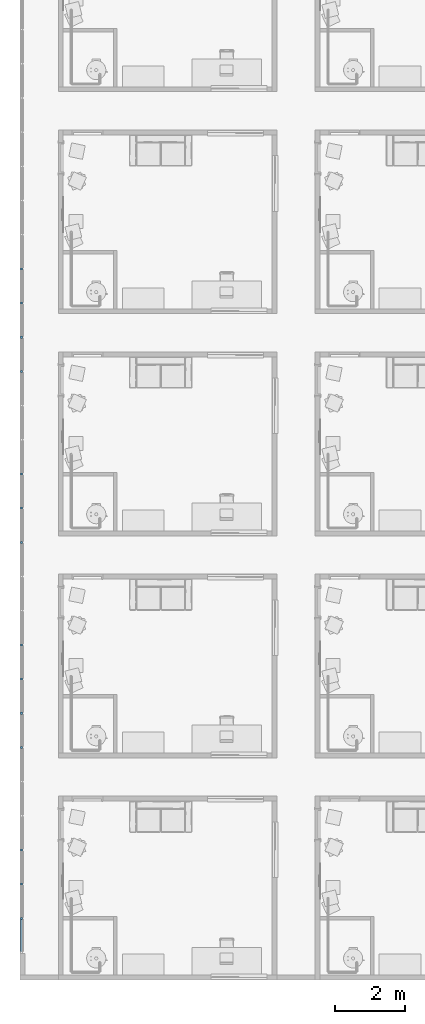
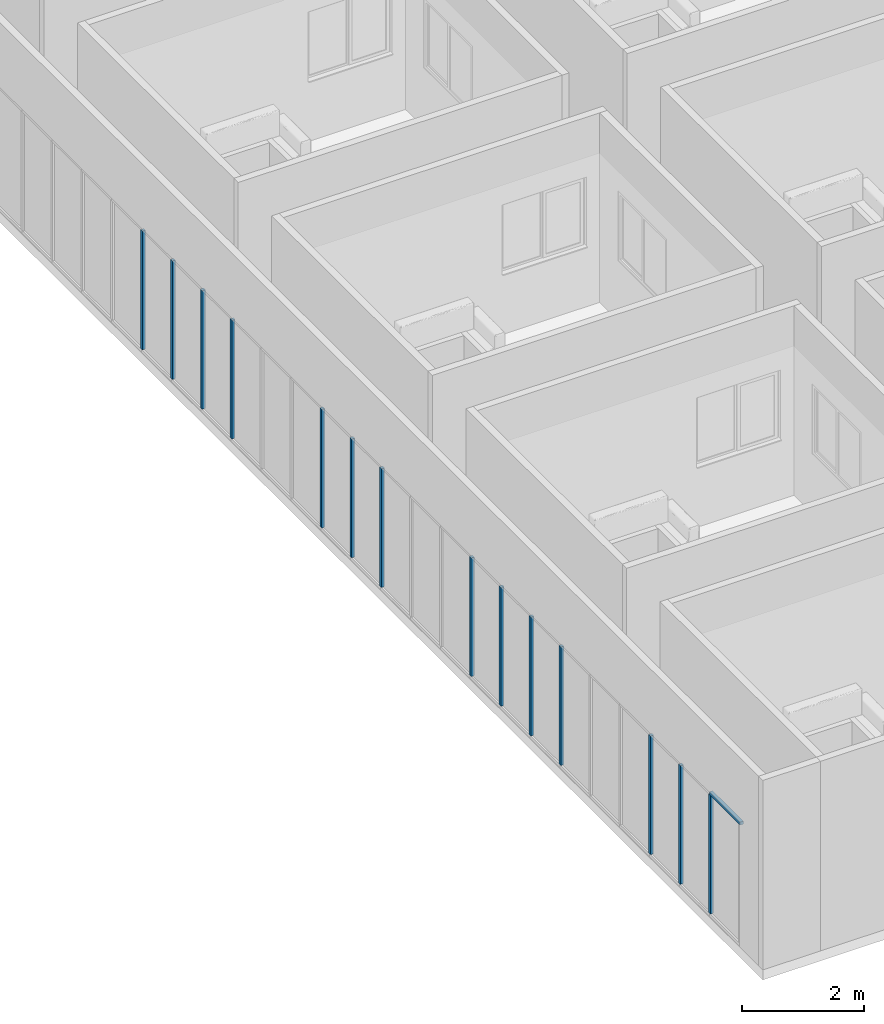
# One storey, part 1 of 69: 15 members, 1 element without a shape of its own.
"""IFC4 building model written with IfcOpenShell, lengths in centimetres."""

from ifc_helpers import new_model, entity, si_unit, converted_unit, derived_unit, direction, frame, origin, place, context, subcontext, project, spatial, indexed_curve, outline, extrude, source, transform, mapped, material, type_object, type_shapes, element, aggregate, save


model = new_model("IFC4")

# Units and contexts
model_context = context("Model", 3, precision=0.001, world=origin(), true_north=direction((6.123233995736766e-17, 1.0)))
body_context = subcontext(model_context, "Body", "Model", "MODEL_VIEW")
ifc_project = project(units=[si_unit("LENGTHUNIT", "METRE", prefix="CENTI"), si_unit("AREAUNIT", "SQUARE_METRE"), si_unit("VOLUMEUNIT", "CUBIC_METRE"), derived_unit("THERMALTRANSMITTANCEUNIT", [(si_unit("MASSUNIT", "GRAM", prefix="KILO"), 1), (si_unit("THERMODYNAMICTEMPERATUREUNIT", "KELVIN"), -1), (si_unit("TIMEUNIT", "SECOND"), -3)]), converted_unit("PLANEANGLEUNIT", "DEGREE", entity("IfcPlaneAngleMeasure", 0.017453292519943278), si_unit("PLANEANGLEUNIT", "RADIAN"), dimensions=[0, 0, 0, 0, 0, 0, 0]), derived_unit("MASSDENSITYUNIT", [(si_unit("MASSUNIT", "GRAM", prefix="KILO"), 1), (si_unit("LENGTHUNIT", "METRE"), -3)]), derived_unit("VAPORPERMEABILITYUNIT", [(si_unit("LENGTHUNIT", "METRE"), -1), (si_unit("TIMEUNIT", "SECOND"), 1)]), derived_unit("USERDEFINED", [(si_unit("MASSUNIT", "GRAM", prefix="KILO"), 1), (si_unit("TIMEUNIT", "SECOND"), -3), (si_unit("LENGTHUNIT", "METRE"), 3), (si_unit("ELECTRICCURRENTUNIT", "AMPERE"), -2)]), derived_unit("SPECIFICHEATCAPACITYUNIT", [(si_unit("THERMODYNAMICTEMPERATUREUNIT", "KELVIN"), -1), (si_unit("LENGTHUNIT", "METRE"), 2), (si_unit("TIMEUNIT", "SECOND"), -2)]), derived_unit("THERMALCONDUCTANCEUNIT", [(si_unit("MASSUNIT", "GRAM", prefix="KILO"), 1), (si_unit("THERMODYNAMICTEMPERATUREUNIT", "KELVIN"), -1), (si_unit("TIMEUNIT", "SECOND"), -3), (si_unit("LENGTHUNIT", "METRE"), 1)]), si_unit("PRESSUREUNIT", "PASCAL"), derived_unit("MODULUSOFELASTICITYUNIT", [(si_unit("MASSUNIT", "GRAM", prefix="KILO"), 1), (si_unit("LENGTHUNIT", "METRE"), -1), (si_unit("TIMEUNIT", "SECOND"), -2)]), derived_unit("THERMALEXPANSIONCOEFFICIENTUNIT", [(si_unit("THERMODYNAMICTEMPERATUREUNIT", "KELVIN"), -1)])], contexts=[model_context])

# Site, building, storey
site_placement = place(None, origin())
site = spatial("IfcSite", under=ifc_project, at=site_placement, Name="Default", CompositionType="ELEMENT")
building_placement = place(site_placement, origin())
building = spatial("IfcBuilding", under=site, at=building_placement, Name="IDS Escape Game Building", CompositionType="ELEMENT")
storey_placement = place(building_placement, origin())
storey = spatial("IfcBuildingStorey", under=building, at=storey_placement, Name="00_Ground Floor", CompositionType="ELEMENT", Elevation=0.0)

# Curtain wall, members
curtain_wall_type = type_object("IfcCurtainWallType", Name="Curtain Wall:ARC_31.3_CWA_LIB_bandraam vast 100cm - profiel 60x60_gen_BERSnl", PredefinedType="NOTDEFINED")
curtain_wall_placement = place(storey_placement, origin())
curtain_wall = element("IfcCurtainWall", 1, at=curtain_wall_placement, inside=storey, type_object=curtain_wall_type, Name="Curtain Wall:ARC_31.3_CWA_LIB_bandraam vast 100cm - profiel 60x60_gen_BERSnl", ObjectType="Curtain Wall:ARC_31.3_CWA_LIB_bandraam vast 100cm - profiel 60x60_gen_BERSnl", PredefinedType="NOTDEFINED")
ifc_material = material(Name="<Unnamed>")
member_type_1 = type_object("IfcMemberType", Name="Rectangular Mullion:30-_Stijl_Rechthoek_Midden_B60xD60", PredefinedType="MULLION", material=ifc_material)
shared_shape_1 = source(origin(), body_context, "Body", "SweptSolid", [
    extrude(outline(indexed_curve([(-3.0, -3.0), (3.0, -3.0), (3.0, 3.0), (-3.0, 3.0), (-3.0, -3.0)], self_intersect=False)), frame((0.0, 3.0, -238.0), z_axis=(0.0, 0.0, 1.0), x_axis=(-1.0, 0.0, 0.0)), (0.0, 0.0, 1.0), 238.00000000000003),
])
type_shapes(member_type_1, [shared_shape_1])
member_1_placement = place(curtain_wall_placement, frame((-110.0, 2041.870967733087, 6.0), z_axis=(0.0, 0.0, -1.0), x_axis=(0.0, -1.0, 0.0)))
member_1 = element("IfcMember", 2, at=member_1_placement, type_object=member_type_1, material=ifc_material, Name="Rectangular Mullion:30-_Stijl_Rechthoek_Midden_B60xD60", ObjectType="Rectangular Mullion:30-_Stijl_Rechthoek_Midden_B60xD60", PredefinedType="MULLION", context=body_context, shape_type="MappedRepresentation", body=[
    mapped(shared_shape_1, transform((0.0, 0.0, 0.0), scale=1.0)),
])
member_2_placement = place(curtain_wall_placement, frame((-110.0, 1943.6774193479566, 6.0), z_axis=(0.0, 0.0, -1.0), x_axis=(0.0, -1.0, 0.0)))
member_2 = element("IfcMember", 3, at=member_2_placement, type_object=member_type_1, material=ifc_material, Name="Rectangular Mullion:30-_Stijl_Rechthoek_Midden_B60xD60", ObjectType="Rectangular Mullion:30-_Stijl_Rechthoek_Midden_B60xD60", PredefinedType="MULLION", context=body_context, shape_type="MappedRepresentation", body=[
    mapped(shared_shape_1, transform((0.0, 0.0, 0.0), scale=1.0)),
])
member_3_placement = place(curtain_wall_placement, frame((-110.0, 1845.4838709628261, 6.0), z_axis=(0.0, 0.0, -1.0), x_axis=(0.0, -1.0, 0.0)))
member_3 = element("IfcMember", 4, at=member_3_placement, type_object=member_type_1, material=ifc_material, Name="Rectangular Mullion:30-_Stijl_Rechthoek_Midden_B60xD60", ObjectType="Rectangular Mullion:30-_Stijl_Rechthoek_Midden_B60xD60", PredefinedType="MULLION", context=body_context, shape_type="MappedRepresentation", body=[
    mapped(shared_shape_1, transform((0.0, 0.0, 0.0), scale=1.0)),
])
member_4_placement = place(curtain_wall_placement, frame((-110.0, 1747.2903225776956, 6.0), z_axis=(0.0, 0.0, -1.0), x_axis=(0.0, -1.0, 0.0)))
member_4 = element("IfcMember", 5, at=member_4_placement, type_object=member_type_1, material=ifc_material, Name="Rectangular Mullion:30-_Stijl_Rechthoek_Midden_B60xD60", ObjectType="Rectangular Mullion:30-_Stijl_Rechthoek_Midden_B60xD60", PredefinedType="MULLION", context=body_context, shape_type="MappedRepresentation", body=[
    mapped(shared_shape_1, transform((0.0, 0.0, 0.0), scale=1.0)),
])
member_5_placement = place(curtain_wall_placement, frame((-110.0, 1452.7096774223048, 6.0), z_axis=(0.0, 0.0, -1.0), x_axis=(0.0, -1.0, 0.0)))
member_5 = element("IfcMember", 6, at=member_5_placement, type_object=member_type_1, material=ifc_material, Name="Rectangular Mullion:30-_Stijl_Rechthoek_Midden_B60xD60", ObjectType="Rectangular Mullion:30-_Stijl_Rechthoek_Midden_B60xD60", PredefinedType="MULLION", context=body_context, shape_type="MappedRepresentation", body=[
    mapped(shared_shape_1, transform((0.0, 0.0, 0.0), scale=1.0)),
])
member_6_placement = place(curtain_wall_placement, frame((-110.0, 1354.5161290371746, 6.0), z_axis=(0.0, 0.0, -1.0), x_axis=(0.0, -1.0, 0.0)))
member_6 = element("IfcMember", 7, at=member_6_placement, type_object=member_type_1, material=ifc_material, Name="Rectangular Mullion:30-_Stijl_Rechthoek_Midden_B60xD60", ObjectType="Rectangular Mullion:30-_Stijl_Rechthoek_Midden_B60xD60", PredefinedType="MULLION", context=body_context, shape_type="MappedRepresentation", body=[
    mapped(shared_shape_1, transform((0.0, 0.0, 0.0), scale=1.0)),
])
member_7_placement = place(curtain_wall_placement, frame((-110.0, 1256.3225806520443, 6.0), z_axis=(0.0, 0.0, -1.0), x_axis=(0.0, -1.0, 0.0)))
member_7 = element("IfcMember", 8, at=member_7_placement, type_object=member_type_1, material=ifc_material, Name="Rectangular Mullion:30-_Stijl_Rechthoek_Midden_B60xD60", ObjectType="Rectangular Mullion:30-_Stijl_Rechthoek_Midden_B60xD60", PredefinedType="MULLION", context=body_context, shape_type="MappedRepresentation", body=[
    mapped(shared_shape_1, transform((0.0, 0.0, 0.0), scale=1.0)),
])
member_8_placement = place(curtain_wall_placement, frame((-110.0, 961.741935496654, 6.0), z_axis=(0.0, 0.0, -1.0), x_axis=(0.0, -1.0, 0.0)))
member_8 = element("IfcMember", 9, at=member_8_placement, type_object=member_type_1, material=ifc_material, Name="Rectangular Mullion:30-_Stijl_Rechthoek_Midden_B60xD60", ObjectType="Rectangular Mullion:30-_Stijl_Rechthoek_Midden_B60xD60", PredefinedType="MULLION", context=body_context, shape_type="MappedRepresentation", body=[
    mapped(shared_shape_1, transform((0.0, 0.0, 0.0), scale=1.0)),
])
member_9_placement = place(curtain_wall_placement, frame((-110.0, 863.5483871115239, 6.0), z_axis=(0.0, 0.0, -1.0), x_axis=(0.0, -1.0, 0.0)))
member_9 = element("IfcMember", 10, at=member_9_placement, type_object=member_type_1, material=ifc_material, Name="Rectangular Mullion:30-_Stijl_Rechthoek_Midden_B60xD60", ObjectType="Rectangular Mullion:30-_Stijl_Rechthoek_Midden_B60xD60", PredefinedType="MULLION", context=body_context, shape_type="MappedRepresentation", body=[
    mapped(shared_shape_1, transform((0.0, 0.0, 0.0), scale=1.0)),
])
member_10_placement = place(curtain_wall_placement, frame((-110.0, 765.3548387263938, 6.0), z_axis=(0.0, 0.0, -1.0), x_axis=(0.0, -1.0, 0.0)))
member_10 = element("IfcMember", 11, at=member_10_placement, type_object=member_type_1, material=ifc_material, Name="Rectangular Mullion:30-_Stijl_Rechthoek_Midden_B60xD60", ObjectType="Rectangular Mullion:30-_Stijl_Rechthoek_Midden_B60xD60", PredefinedType="MULLION", context=body_context, shape_type="MappedRepresentation", body=[
    mapped(shared_shape_1, transform((0.0, 0.0, 0.0), scale=1.0)),
])
member_11_placement = place(curtain_wall_placement, frame((-110.0, 667.1612903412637, 6.0), z_axis=(0.0, 0.0, -1.0), x_axis=(0.0, -1.0, 0.0)))
member_11 = element("IfcMember", 12, at=member_11_placement, type_object=member_type_1, material=ifc_material, Name="Rectangular Mullion:30-_Stijl_Rechthoek_Midden_B60xD60", ObjectType="Rectangular Mullion:30-_Stijl_Rechthoek_Midden_B60xD60", PredefinedType="MULLION", context=body_context, shape_type="MappedRepresentation", body=[
    mapped(shared_shape_1, transform((0.0, 0.0, 0.0), scale=1.0)),
])
member_12_placement = place(curtain_wall_placement, frame((-110.0, 372.5806451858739, 6.0), z_axis=(0.0, 0.0, -1.0), x_axis=(0.0, -1.0, 0.0)))
member_12 = element("IfcMember", 13, at=member_12_placement, type_object=member_type_1, material=ifc_material, Name="Rectangular Mullion:30-_Stijl_Rechthoek_Midden_B60xD60", ObjectType="Rectangular Mullion:30-_Stijl_Rechthoek_Midden_B60xD60", PredefinedType="MULLION", context=body_context, shape_type="MappedRepresentation", body=[
    mapped(shared_shape_1, transform((0.0, 0.0, 0.0), scale=1.0)),
])
member_13_placement = place(curtain_wall_placement, frame((-110.0, 274.38709680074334, 6.0), z_axis=(0.0, 0.0, -1.0), x_axis=(0.0, -1.0, 0.0)))
member_13 = element("IfcMember", 14, at=member_13_placement, type_object=member_type_1, material=ifc_material, Name="Rectangular Mullion:30-_Stijl_Rechthoek_Midden_B60xD60", ObjectType="Rectangular Mullion:30-_Stijl_Rechthoek_Midden_B60xD60", PredefinedType="MULLION", context=body_context, shape_type="MappedRepresentation", body=[
    mapped(shared_shape_1, transform((0.0, 0.0, 0.0), scale=1.0)),
])
member_14_placement = place(curtain_wall_placement, frame((-110.0, 176.1935484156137, 6.0), z_axis=(0.0, 0.0, -1.0), x_axis=(0.0, -1.0, 0.0)))
member_14 = element("IfcMember", 15, at=member_14_placement, type_object=member_type_1, material=ifc_material, Name="Rectangular Mullion:30-_Stijl_Rechthoek_Midden_B60xD60", ObjectType="Rectangular Mullion:30-_Stijl_Rechthoek_Midden_B60xD60", PredefinedType="MULLION", context=body_context, shape_type="MappedRepresentation", body=[
    mapped(shared_shape_1, transform((0.0, 0.0, 0.0), scale=1.0)),
])
member_type_2 = type_object("IfcMemberType", Name="Rectangular Mullion:30-_Stijl_Rechthoek_Midden_B60xD60", PredefinedType="MULLION", material=ifc_material)
shared_shape_2 = source(origin(), body_context, "Body", "SweptSolid", [
    extrude(outline(indexed_curve([(-3.0, -3.0), (3.0, -3.0), (3.0, 3.0), (-3.0, 3.0), (-3.0, -3.0)], self_intersect=False)), frame((-3.0, 3.0, -101.193548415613), z_axis=(0.0, 0.0, 1.0), x_axis=(-1.0, 0.0, 0.0)), (0.0, 0.0, 1.0), 101.193548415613),
])
type_shapes(member_type_2, [shared_shape_2])
member_15_placement = place(curtain_wall_placement, frame((-110.0, 75.0, 250.0), z_axis=(0.0, -1.0, 0.0), x_axis=(0.0, 0.0, 1.0)))
member_15 = element("IfcMember", 16, at=member_15_placement, type_object=member_type_2, material=ifc_material, Name="Rectangular Mullion:30-_Stijl_Rechthoek_Midden_B60xD60", ObjectType="Rectangular Mullion:30-_Stijl_Rechthoek_Midden_B60xD60", PredefinedType="MULLION", context=body_context, shape_type="MappedRepresentation", body=[
    mapped(shared_shape_2, transform((0.0, 0.0, 0.0), scale=1.0)),
])
aggregate(curtain_wall, [member_15, member_1, member_2, member_3, member_4, member_5, member_6, member_7, member_8, member_9, member_10, member_11, member_12, member_13, member_14])

save(model, "model.ifc")
